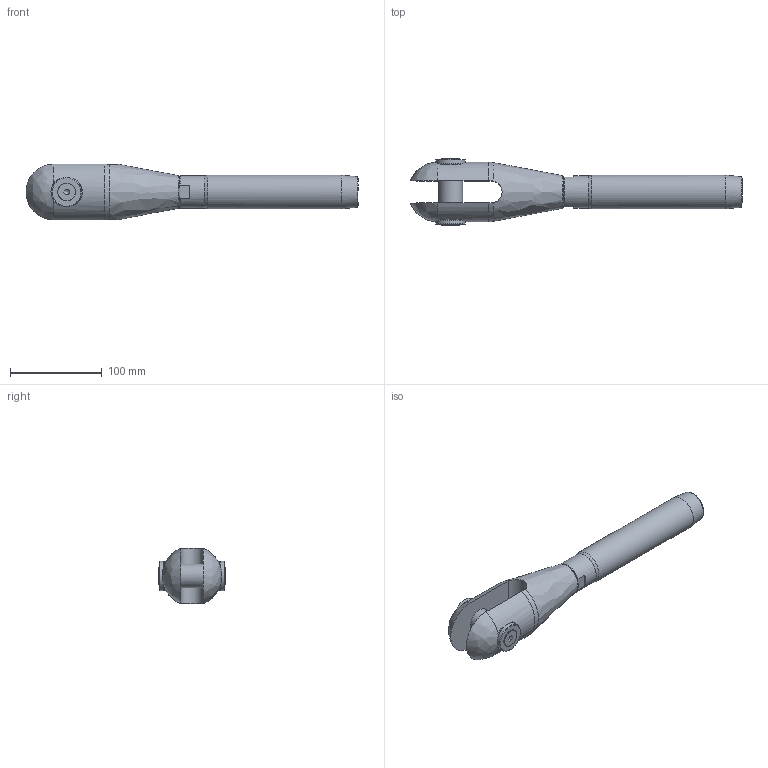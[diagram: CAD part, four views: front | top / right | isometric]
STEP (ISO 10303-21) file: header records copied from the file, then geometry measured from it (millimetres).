
FILE_DESCRIPTION(/* description */ (''),/* implementation_level */ '2;1');
FILE_NAME(/* name */ 'MAC-R 18_1,4418',/* time_stamp */ '2023-05-23T17:52:09+02:00',/* author */ (''),/* organization */ (''),/* preprocessor_version */ 'ST-DEVELOPER v16.5',/* originating_system */ 'Rhino 7.22',/* authorisation */ '');
FILE_SCHEMA (('CONFIG_CONTROL_DESIGN'));
Length unit declared in the file: millimetre
Products named in the file (1): Document
Bounding box: 361.18 x 72.16 x 60.44 mm (x, y, z)
Volume: 504332 mm3; surface area: 86547.1 mm2
Topology: 7 solids, 7 shells, 88 faces, 245 edges, 170 vertices
Faces by surface type: plane 36, bspline 28, cylinder 24
Full cylindrical faces by diameter (mm): 8.376 x2, 10 x2, 10.5 x2, 19.22 x2, 26 x1, 26.211 x1, 28 x2, 30 x1, 32 x2, 35 x1, 36.8 x1
Entity records: 3498 total; most frequent: CARTESIAN_POINT 1939, ORIENTED_EDGE 480, EDGE_CURVE 240, VERTEX_POINT 170, EDGE_LOOP 100, B_SPLINE_CURVE_WITH_KNOTS 97, ADVANCED_FACE 88, FACE_OUTER_BOUND 88
